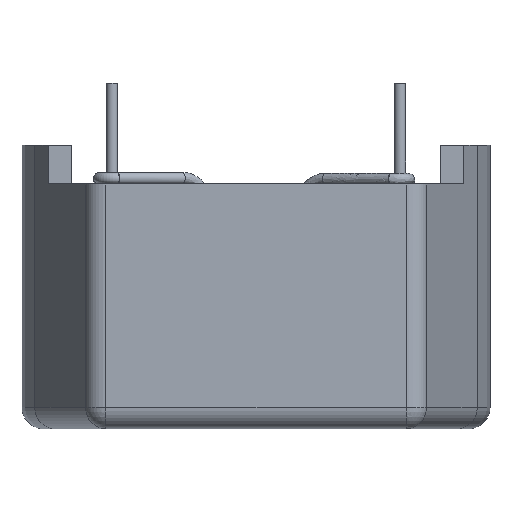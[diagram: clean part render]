
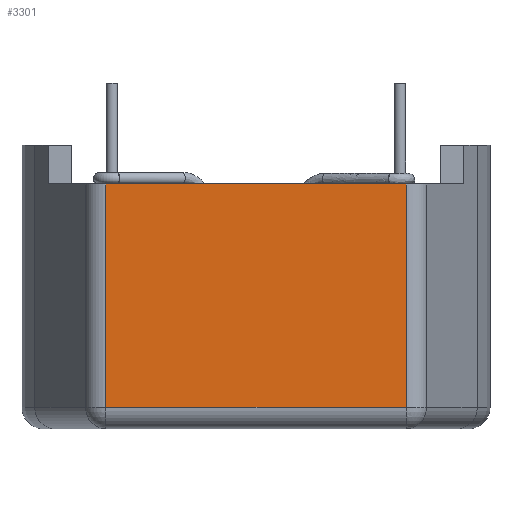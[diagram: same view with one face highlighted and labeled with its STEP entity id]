
A CAD part, front view. The second image highlights one B-rep face of the part: STEP entity #3301.
In plain terms, the highlighted planar face has unit normal (0, -1, 0).
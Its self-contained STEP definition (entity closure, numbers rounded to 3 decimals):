
#946=CARTESIAN_POINT('',(-10.293,-15.97,0.0));
#947=VERTEX_POINT('',#946);
#955=CARTESIAN_POINT('',(10.542,-15.97,0.0));
#956=VERTEX_POINT('',#955);
#957=CARTESIAN_POINT('',(-10.293,-15.97,0.0));
#958=DIRECTION('',(1.0,0.0,0.0));
#959=VECTOR('',#958,20.836);
#960=LINE('',#957,#959);
#961=EDGE_CURVE('',#947,#956,#960,.T.);
#3089=CARTESIAN_POINT('',(-10.293,-15.97,-15.5));
#3090=VERTEX_POINT('',#3089);
#3104=CARTESIAN_POINT('',(10.542,-15.97,-15.5));
#3105=VERTEX_POINT('',#3104);
#3113=CARTESIAN_POINT('',(10.542,-15.97,-15.5));
#3114=DIRECTION('',(-1.0,0.0,0.0));
#3115=VECTOR('',#3114,20.836);
#3116=LINE('',#3113,#3115);
#3117=EDGE_CURVE('',#3105,#3090,#3116,.T.);
#3274=CARTESIAN_POINT('',(-10.293,-15.97,0.0));
#3275=DIRECTION('',(0.0,0.0,-1.0));
#3276=VECTOR('',#3275,15.5);
#3277=LINE('',#3274,#3276);
#3278=EDGE_CURVE('',#947,#3090,#3277,.T.);
#3285=CARTESIAN_POINT('',(-10.293,-15.97,0.0));
#3286=DIRECTION('',(0.0,-1.0,0.0));
#3287=DIRECTION('',(0.0,0.0,-1.0));
#3288=AXIS2_PLACEMENT_3D('',#3285,#3286,#3287);
#3289=PLANE('',#3288);
#3290=ORIENTED_EDGE('',*,*,#3117,.F.);
#3291=CARTESIAN_POINT('',(10.542,-15.97,0.0));
#3292=DIRECTION('',(0.0,0.0,-1.0));
#3293=VECTOR('',#3292,15.5);
#3294=LINE('',#3291,#3293);
#3295=EDGE_CURVE('',#956,#3105,#3294,.T.);
#3296=ORIENTED_EDGE('',*,*,#3295,.F.);
#3297=ORIENTED_EDGE('',*,*,#961,.F.);
#3298=ORIENTED_EDGE('',*,*,#3278,.T.);
#3299=EDGE_LOOP('',(#3290,#3296,#3297,#3298));
#3300=FACE_OUTER_BOUND('',#3299,.T.);
#3301=ADVANCED_FACE('',(#3300),#3289,.T.);
